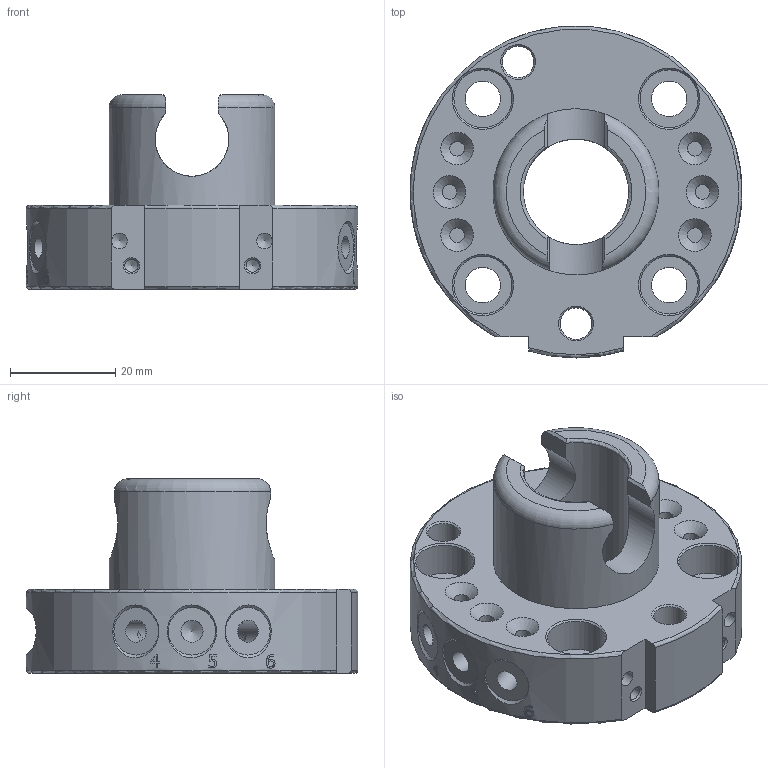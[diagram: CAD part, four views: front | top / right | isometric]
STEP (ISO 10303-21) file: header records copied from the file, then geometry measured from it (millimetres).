
FILE_DESCRIPTION(/* description */ (''),/* implementation_level */ '2;1');
FILE_NAME(/* name */ 'G-SHS063-U-A050.stp',/* time_stamp */ '2024-05-24T11:27:09+02:00',/* author */ ('ysplieth'),/* organization */ (''),/* preprocessor_version */ 'ST-DEVELOPER v20',/* originating_system */ 'Autodesk Inventor 2024',/* authorisation */ '');
FILE_SCHEMA (('AUTOMOTIVE_DESIGN { 1 0 10303 214 3 1 1 }'));
Length unit declared in the file: millimetre
Products named in the file (1): Bauteil1
Bounding box: 63 x 62.99 x 37 mm (x, y, z)
Volume: 42596 mm3; surface area: 16397.7 mm2
Topology: 1 solids, 1 shells, 542 faces, 1446 edges, 958 vertices
Faces by surface type: plane 217, bspline 190, cone 62, cylinder 61, torus 12
Full cylindrical faces by diameter (mm): 2.5 x2, 2.8 x6, 3 x2, 4.2 x18, 6 x2, 6.75 x4, 7 x6, 11 x4, 20 x1, 31.5 x2
Entity records: 20780 total; most frequent: CARTESIAN_POINT 8149, ORIENTED_EDGE 2860, DIRECTION 1900, EDGE_CURVE 1430, VERTEX_POINT 958, LINE 702, VECTOR 702, EDGE_LOOP 636
